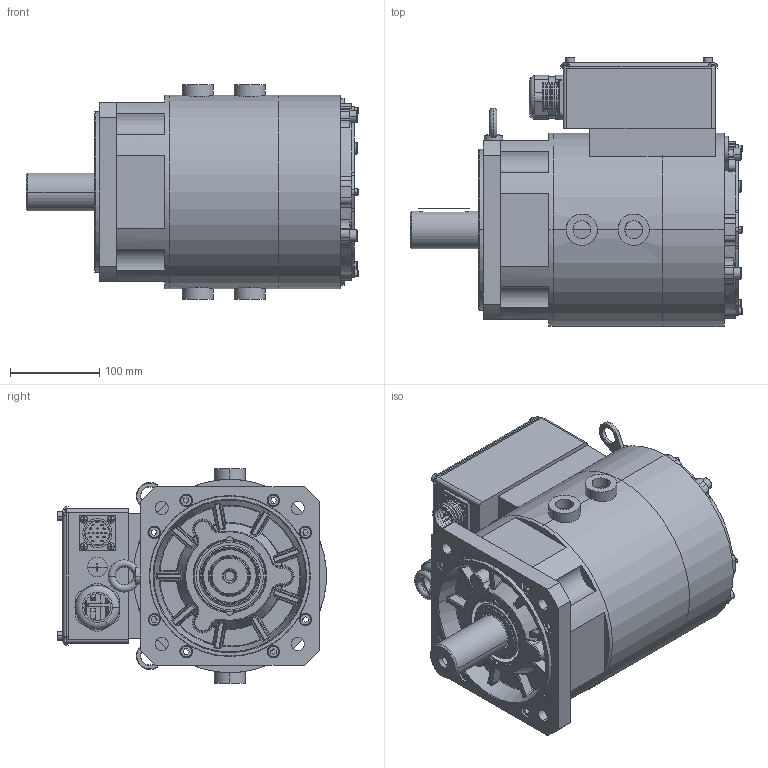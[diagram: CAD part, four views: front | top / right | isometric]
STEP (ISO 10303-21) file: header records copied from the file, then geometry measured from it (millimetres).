
FILE_DESCRIPTION((''),'2;1');
FILE_NAME('11101-01766_SW0002','2026-02-12T16:44:52',('admin'),(''),'CREO PARAMETRIC BY PTC INC, 2019080','CREO PARAMETRIC BY PTC INC, 2019080','');
FILE_SCHEMA(('CONFIG_CONTROL_DESIGN'));
Length unit declared in the file: millimetre
Products named in the file (1): 11101-01766_SW0002
Bounding box: 371 x 300.5 x 240 mm (x, y, z)
Surface area: 755182 mm2 (no closed solid volume)
Topology: 0 solids, 97 shells, 819 faces, 3994 edges, 3221 vertices
Faces by surface type: cylinder 317, plane 313, torus 86, cone 81, bspline 12, sphere 10
Entity records: 43171 total; most frequent: CARTESIAN_POINT 11410, DIRECTION 6795, ORIENTED_EDGE 5408, EDGE_CURVE 3994, VERTEX_POINT 3221, AXIS2_PLACEMENT_3D 2302, VECTOR 2191, LINE 2191
